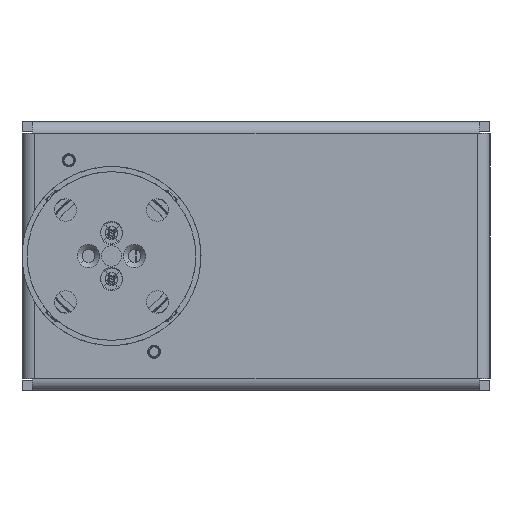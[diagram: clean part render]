
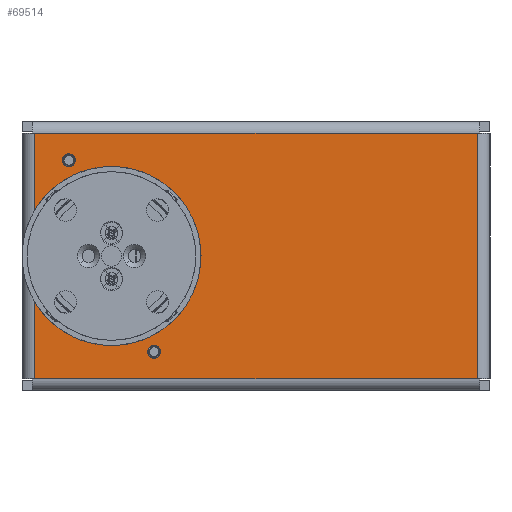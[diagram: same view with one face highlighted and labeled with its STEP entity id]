
A CAD part, front view. The second image highlights one B-rep face of the part: STEP entity #69514.
In plain terms, the highlighted planar face has unit normal (0, -1, 0).
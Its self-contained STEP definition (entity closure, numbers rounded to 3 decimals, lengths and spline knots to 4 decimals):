
#2324 = VERTEX_POINT ( 'NONE', #49511 ) ;
#4135 = FACE_BOUND ( 'NONE', #33718, .T. ) ;
#5492 = EDGE_CURVE ( 'NONE', #102213, #61600, #96860, .T. ) ;
#6374 = CIRCLE ( 'NONE', #98849, 0.0827 ) ;
#11505 = DIRECTION ( 'NONE',  ( 1., 0., 0. ) ) ;
#11900 = CARTESIAN_POINT ( 'NONE',  ( -0.6565, 21.437, 1.4746 ) ) ;
#13852 = CARTESIAN_POINT ( 'NONE',  ( 5.6299, 21.437, -1.8898 ) ) ;
#14491 = VERTEX_POINT ( 'NONE', #99730 ) ;
#15254 = EDGE_LOOP ( 'NONE', ( #54674, #23991, #69730, #100314 ) ) ;
#15426 = CARTESIAN_POINT ( 'NONE',  ( -0.6565, 21.437, 1.4746 ) ) ;
#16423 = VERTEX_POINT ( 'NONE', #13852 ) ;
#16845 = CARTESIAN_POINT ( 'NONE',  ( 0., 21.437, -0.9843 ) ) ;
#19548 = AXIS2_PLACEMENT_3D ( 'NONE', #91861, #57861, #40881 ) ;
#21056 = CARTESIAN_POINT ( 'NONE',  ( 5.6299, 21.437, -1.8898 ) ) ;
#21486 = EDGE_LOOP ( 'NONE', ( #109378, #63499 ) ) ;
#23991 = ORIENTED_EDGE ( 'NONE', *, *, #30478, .T. ) ;
#25120 = VERTEX_POINT ( 'NONE', #67148 ) ;
#29547 = AXIS2_PLACEMENT_3D ( 'NONE', #15426, #85700, #42282 ) ;
#30478 = EDGE_CURVE ( 'NONE', #72616, #81495, #94941, .T. ) ;
#32182 = CIRCLE ( 'NONE', #61246, 0.0827 ) ;
#32530 = CARTESIAN_POINT ( 'NONE',  ( 0., 21.437, 0.9843 ) ) ;
#33718 = EDGE_LOOP ( 'NONE', ( #107840, #69741 ) ) ;
#39276 = FACE_BOUND ( 'NONE', #21486, .T. ) ;
#39613 = LINE ( 'NONE', #21056, #100389 ) ;
#39624 = CIRCLE ( 'NONE', #92589, 0.9843 ) ;
#40881 = DIRECTION ( 'NONE',  ( 0., 0., 1. ) ) ;
#40937 = CARTESIAN_POINT ( 'NONE',  ( 5.8268, 21.437, 1.8898 ) ) ;
#41258 = EDGE_LOOP ( 'NONE', ( #86332, #85907 ) ) ;
#42282 = DIRECTION ( 'NONE',  ( 0., 0., 1. ) ) ;
#42511 = DIRECTION ( 'NONE',  ( 0., 1., 0. ) ) ;
#43231 = CARTESIAN_POINT ( 'NONE',  ( 5.6299, 21.437, 1.8898 ) ) ;
#45302 = DIRECTION ( 'NONE',  ( 0., 1., 0. ) ) ;
#47231 = DIRECTION ( 'NONE',  ( 0., 0., -1. ) ) ;
#48121 = LINE ( 'NONE', #81231, #106217 ) ;
#49511 = CARTESIAN_POINT ( 'NONE',  ( 0.6565, 21.437, -1.3919 ) ) ;
#54674 = ORIENTED_EDGE ( 'NONE', *, *, #110055, .T. ) ;
#55519 = AXIS2_PLACEMENT_3D ( 'NONE', #94939, #87414, #95718 ) ;
#56659 = VERTEX_POINT ( 'NONE', #96474 ) ;
#57861 = DIRECTION ( 'NONE',  ( 0., 1., 0. ) ) ;
#58356 = DIRECTION ( 'NONE',  ( 0., 1., 0. ) ) ;
#61246 = AXIS2_PLACEMENT_3D ( 'NONE', #94235, #42511, #79482 ) ;
#61600 = VERTEX_POINT ( 'NONE', #16845 ) ;
#62193 = DIRECTION ( 'NONE',  ( 0., 0., 1. ) ) ;
#63499 = ORIENTED_EDGE ( 'NONE', *, *, #88225, .T. ) ;
#63856 = EDGE_CURVE ( 'NONE', #81495, #97642, #48121, .T. ) ;
#64852 = DIRECTION ( 'NONE',  ( 0., 0., 1. ) ) ;
#64961 = CIRCLE ( 'NONE', #29547, 0.0827 ) ;
#66536 = DIRECTION ( 'NONE',  ( -1., 0., 0. ) ) ;
#67148 = CARTESIAN_POINT ( 'NONE',  ( 0.6565, 21.437, -1.5573 ) ) ;
#67228 = PLANE ( 'NONE',  #19548 ) ;
#69514 = ADVANCED_FACE ( 'NONE', ( #71623, #4135, #39276, #93340 ), #67228, .F. ) ;
#69730 = ORIENTED_EDGE ( 'NONE', *, *, #63856, .T. ) ;
#69741 = ORIENTED_EDGE ( 'NONE', *, *, #75860, .T. ) ;
#69768 = DIRECTION ( 'NONE',  ( 0., 1., 0. ) ) ;
#71623 = FACE_BOUND ( 'NONE', #41258, .T. ) ;
#72616 = VERTEX_POINT ( 'NONE', #43231 ) ;
#72711 = CARTESIAN_POINT ( 'NONE',  ( -1.1811, 21.437, -1.8898 ) ) ;
#74861 = AXIS2_PLACEMENT_3D ( 'NONE', #96297, #45302, #79277 ) ;
#74862 = EDGE_CURVE ( 'NONE', #2324, #25120, #32182, .T. ) ;
#75860 = EDGE_CURVE ( 'NONE', #25120, #2324, #90174, .T. ) ;
#79277 = DIRECTION ( 'NONE',  ( 0., 0., 1. ) ) ;
#79482 = DIRECTION ( 'NONE',  ( 0., 0., 1. ) ) ;
#81231 = CARTESIAN_POINT ( 'NONE',  ( -1.1811, 21.437, 1.8898 ) ) ;
#81495 = VERTEX_POINT ( 'NONE', #105505 ) ;
#83712 = DIRECTION ( 'NONE',  ( 0., 0., 1. ) ) ;
#84044 = VECTOR ( 'NONE', #11505, 39.3701 ) ;
#85331 = EDGE_CURVE ( 'NONE', #14491, #56659, #6374, .T. ) ;
#85700 = DIRECTION ( 'NONE',  ( 0., 1., 0. ) ) ;
#85907 = ORIENTED_EDGE ( 'NONE', *, *, #91194, .T. ) ;
#86332 = ORIENTED_EDGE ( 'NONE', *, *, #85331, .T. ) ;
#87414 = DIRECTION ( 'NONE',  ( 0., 1., 0. ) ) ;
#88225 = EDGE_CURVE ( 'NONE', #61600, #102213, #39624, .T. ) ;
#90174 = CIRCLE ( 'NONE', #55519, 0.0827 ) ;
#91194 = EDGE_CURVE ( 'NONE', #56659, #14491, #64961, .T. ) ;
#91861 = CARTESIAN_POINT ( 'NONE',  ( 0., 21.437, 0. ) ) ;
#92589 = AXIS2_PLACEMENT_3D ( 'NONE', #103836, #69768, #62193 ) ;
#93340 = FACE_OUTER_BOUND ( 'NONE', #15254, .T. ) ;
#94235 = CARTESIAN_POINT ( 'NONE',  ( 0.6565, 21.437, -1.4746 ) ) ;
#94939 = CARTESIAN_POINT ( 'NONE',  ( 0.6565, 21.437, -1.4746 ) ) ;
#94941 = LINE ( 'NONE', #40937, #96383 ) ;
#95718 = DIRECTION ( 'NONE',  ( 0., 0., 1. ) ) ;
#96297 = CARTESIAN_POINT ( 'NONE',  ( 0., 21.437, 0. ) ) ;
#96383 = VECTOR ( 'NONE', #66536, 39.3701 ) ;
#96474 = CARTESIAN_POINT ( 'NONE',  ( -0.6565, 21.437, 1.3919 ) ) ;
#96860 = CIRCLE ( 'NONE', #74861, 0.9843 ) ;
#97642 = VERTEX_POINT ( 'NONE', #72711 ) ;
#98849 = AXIS2_PLACEMENT_3D ( 'NONE', #11900, #58356, #83712 ) ;
#99730 = CARTESIAN_POINT ( 'NONE',  ( -0.6565, 21.437, 1.5573 ) ) ;
#100314 = ORIENTED_EDGE ( 'NONE', *, *, #102906, .T. ) ;
#100389 = VECTOR ( 'NONE', #64852, 39.3701 ) ;
#102213 = VERTEX_POINT ( 'NONE', #32530 ) ;
#102906 = EDGE_CURVE ( 'NONE', #97642, #16423, #110992, .T. ) ;
#103836 = CARTESIAN_POINT ( 'NONE',  ( 0., 21.437, 0. ) ) ;
#105505 = CARTESIAN_POINT ( 'NONE',  ( -1.1811, 21.437, 1.8898 ) ) ;
#106217 = VECTOR ( 'NONE', #47231, 39.3701 ) ;
#106340 = CARTESIAN_POINT ( 'NONE',  ( -1.378, 21.437, -1.8898 ) ) ;
#107840 = ORIENTED_EDGE ( 'NONE', *, *, #74862, .T. ) ;
#109378 = ORIENTED_EDGE ( 'NONE', *, *, #5492, .T. ) ;
#110055 = EDGE_CURVE ( 'NONE', #16423, #72616, #39613, .T. ) ;
#110992 = LINE ( 'NONE', #106340, #84044 ) ;
